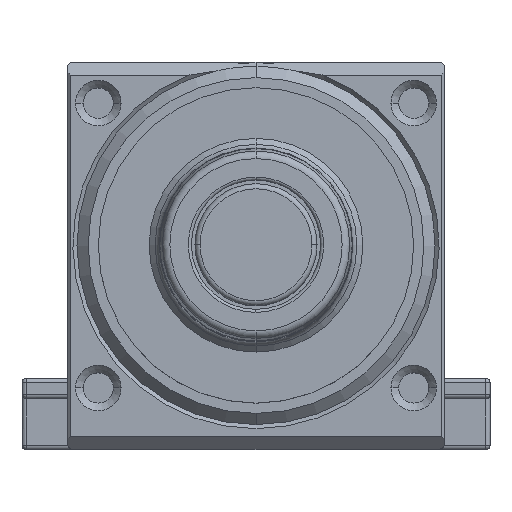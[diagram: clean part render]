
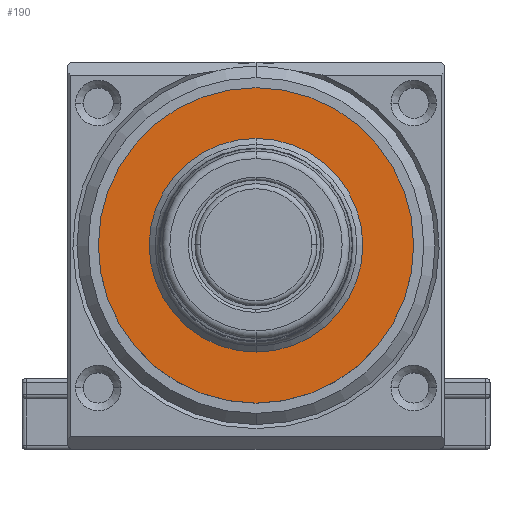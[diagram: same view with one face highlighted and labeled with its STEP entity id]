
A CAD part, top view. The second image highlights one B-rep face of the part: STEP entity #190.
In plain terms, the highlighted planar face has unit normal (0, 0, 1).
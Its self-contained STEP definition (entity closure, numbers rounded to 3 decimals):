
#34=CARTESIAN_POINT('',(0.,0.,6.));
#35=DIRECTION('',(0.,0.,1.));
#36=DIRECTION('',(0.,1.,0.));
#37=AXIS2_PLACEMENT_3D('',#34,#35,#36);
#39=CARTESIAN_POINT('',(0.,0.,6.));
#40=DIRECTION('',(0.,0.,-1.));
#41=DIRECTION('',(0.,1.,0.));
#42=AXIS2_PLACEMENT_3D('',#39,#40,#41);
#97=CARTESIAN_POINT('',(0.,15.5,6.));
#99=VERTEX_POINT('',#97);
#101=CARTESIAN_POINT('',(0.,-15.5,6.));
#103=VERTEX_POINT('',#101);
#181=CARTESIAN_POINT('',(0.,0.,6.));
#182=DIRECTION('',(0.,0.,-1.));
#183=DIRECTION('',(0.,-1.,0.));
#184=AXIS2_PLACEMENT_3D('',#181,#182,#183);
#185=PLANE('',#184);
#186=ORIENTED_EDGE('',*,*,#160,.F.);
#187=ORIENTED_EDGE('',*,*,#176,.T.);
#188=EDGE_LOOP('',(#186,#187));
#189=FACE_OUTER_BOUND('',#188,.F.);
#190=ADVANCED_FACE('',(#189),#185,.F.);
#38=CIRCLE('',#37,15.5);
#43=CIRCLE('',#42,15.5);
#160=EDGE_CURVE('',#99,#103,#38,.T.);
#176=EDGE_CURVE('',#99,#103,#43,.T.);
